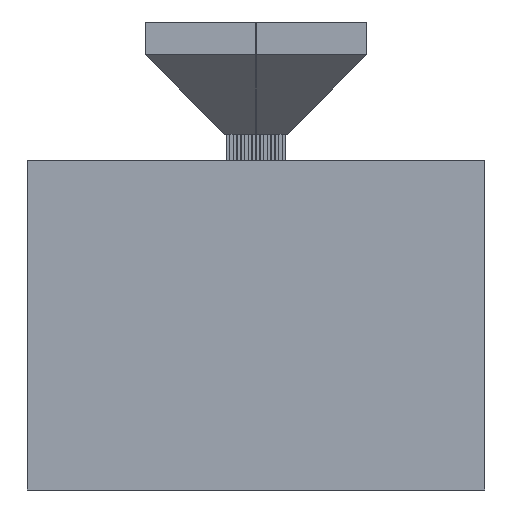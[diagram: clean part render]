
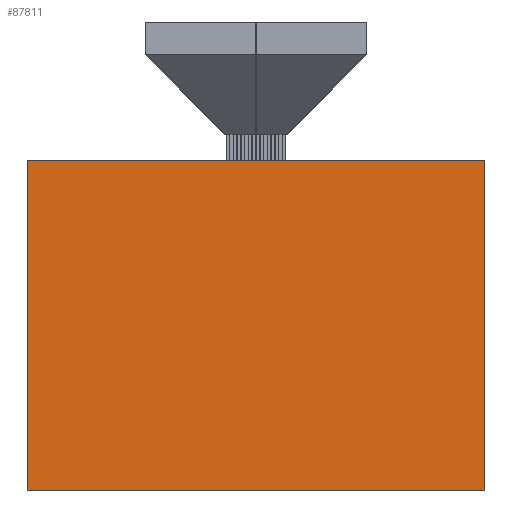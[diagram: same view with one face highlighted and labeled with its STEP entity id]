
A CAD part, left-side view. The second image highlights one B-rep face of the part: STEP entity #87811.
In plain terms, the highlighted planar face has unit normal (-1, 0, 0).
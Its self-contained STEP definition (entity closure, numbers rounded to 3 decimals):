
#2113=FACE_OUTER_BOUND('',#7865,.T.);
#7865=EDGE_LOOP('',(#64719,#64720,#64721,#64722));
#14659=LINE('',#121394,#27189);
#18761=LINE('',#129598,#31291);
#18762=LINE('',#129600,#31292);
#18763=LINE('',#129601,#31293);
#27189=VECTOR('',#98367,10.);
#31291=VECTOR('',#102473,10.);
#31292=VECTOR('',#102474,10.);
#31293=VECTOR('',#102475,10.);
#39711=VERTEX_POINT('',#121391);
#39712=VERTEX_POINT('',#121393);
#43812=VERTEX_POINT('',#129597);
#43813=VERTEX_POINT('',#129599);
#48071=EDGE_CURVE('',#39712,#39711,#14659,.T.);
#52173=EDGE_CURVE('',#39711,#43812,#18761,.T.);
#52174=EDGE_CURVE('',#43812,#43813,#18762,.T.);
#52175=EDGE_CURVE('',#43813,#39712,#18763,.T.);
#64719=ORIENTED_EDGE('',*,*,#48071,.T.);
#64720=ORIENTED_EDGE('',*,*,#52173,.T.);
#64721=ORIENTED_EDGE('',*,*,#52174,.T.);
#64722=ORIENTED_EDGE('',*,*,#52175,.T.);
#83595=PLANE('',#92058);
#87811=ADVANCED_FACE('',(#2113),#83595,.T.);
#92058=AXIS2_PLACEMENT_3D('',#129596,#102471,#102472);
#98367=DIRECTION('',(0.,1.,0.));
#102471=DIRECTION('center_axis',(-1.,0.,0.));
#102472=DIRECTION('ref_axis',(0.,0.,1.));
#102473=DIRECTION('',(0.,0.,-1.));
#102474=DIRECTION('',(0.,-1.,0.));
#102475=DIRECTION('',(0.,0.,1.));
#121391=CARTESIAN_POINT('',(-162.,394.7,0.));
#121393=CARTESIAN_POINT('',(-162.,-300.,0.));
#121394=CARTESIAN_POINT('',(-162.,-100.,0.));
#129596=CARTESIAN_POINT('Origin',(-162.,94.7,0.));
#129597=CARTESIAN_POINT('',(-162.,394.7,-500.));
#129598=CARTESIAN_POINT('',(-162.,394.7,0.));
#129599=CARTESIAN_POINT('',(-162.,-300.,-500.));
#129600=CARTESIAN_POINT('',(-162.,194.7,-500.));
#129601=CARTESIAN_POINT('',(-162.,-300.,0.));
